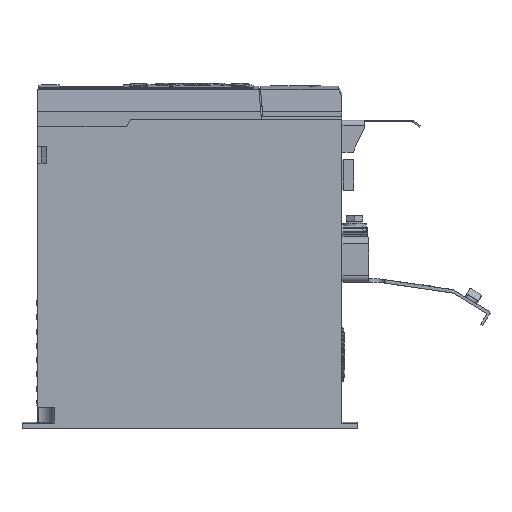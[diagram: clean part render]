
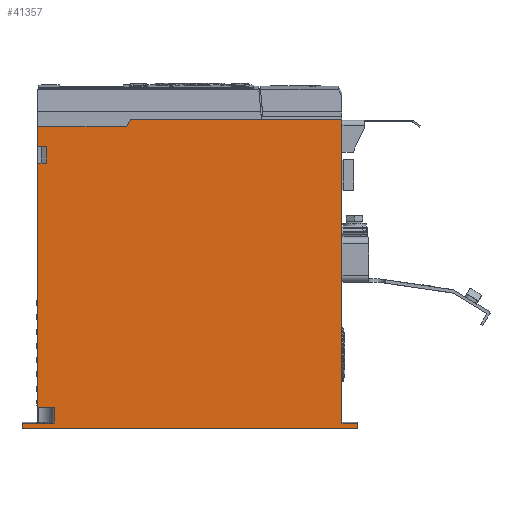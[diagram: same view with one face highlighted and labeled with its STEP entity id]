
A CAD part, left-side view. The second image highlights one B-rep face of the part: STEP entity #41357.
In plain terms, the highlighted planar face has unit normal (-1, 0, 0).
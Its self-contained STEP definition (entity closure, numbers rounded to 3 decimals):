
#2907=DIRECTION('',(0.,-1.,0.));
#2908=VECTOR('',#2907,200.);
#2909=CARTESIAN_POINT('',(-49.4,100.,-89.4));
#2910=LINE('',#2909,#2908);
#3012=DIRECTION('',(0.,1.,0.));
#3013=VECTOR('',#3012,9.25);
#3014=CARTESIAN_POINT('',(-49.4,-100.,-86.4));
#3015=LINE('',#3014,#3013);
#3048=DIRECTION('',(0.,1.,0.));
#3049=VECTOR('',#3048,18.748);
#3050=CARTESIAN_POINT('',(-49.4,81.252,-86.4));
#3051=LINE('',#3050,#3049);
#7835=DIRECTION('',(0.,0.,1.));
#7836=VECTOR('',#7835,3.);
#7837=CARTESIAN_POINT('',(-49.4,-100.,-89.4));
#7838=LINE('',#7837,#7836);
#8356=DIRECTION('',(0.,0.,1.));
#8357=VECTOR('',#8356,9.501);
#8358=CARTESIAN_POINT('',(-49.4,80.75,-85.901));
#8359=LINE('',#8358,#8357);
#8360=DIRECTION('',(0.,1.,0.));
#8361=VECTOR('',#8360,10.);
#8362=CARTESIAN_POINT('',(-49.4,80.75,-76.4));
#8363=LINE('',#8362,#8361);
#8364=DIRECTION('',(0.,0.,1.));
#8365=VECTOR('',#8364,145.4);
#8366=CARTESIAN_POINT('',(-49.4,90.75,-76.4));
#8367=LINE('',#8366,#8365);
#8368=DIRECTION('',(0.,-1.,0.));
#8369=VECTOR('',#8368,5.36);
#8370=CARTESIAN_POINT('',(-49.4,90.75,69.));
#8371=LINE('',#8370,#8369);
#8372=DIRECTION('',(0.,0.,1.));
#8373=VECTOR('',#8372,10.);
#8374=CARTESIAN_POINT('',(-49.4,85.39,69.));
#8375=LINE('',#8374,#8373);
#8376=DIRECTION('',(0.,-1.,0.));
#8377=VECTOR('',#8376,5.36);
#8378=CARTESIAN_POINT('',(-49.4,90.75,79.));
#8379=LINE('',#8378,#8377);
#8380=DIRECTION('',(0.,0.,1.));
#8381=VECTOR('',#8380,11.6);
#8382=CARTESIAN_POINT('',(-49.4,90.75,79.));
#8383=LINE('',#8382,#8381);
#8384=DIRECTION('',(0.,1.,0.));
#8385=VECTOR('',#8384,53.);
#8386=CARTESIAN_POINT('',(-49.4,37.75,90.6));
#8387=LINE('',#8386,#8385);
#8388=DIRECTION('',(0.,-0.5,0.866));
#8389=VECTOR('',#8388,5.196);
#8390=CARTESIAN_POINT('',(-49.4,37.75,90.6));
#8391=LINE('',#8390,#8389);
#8392=DIRECTION('',(0.,-1.,0.));
#8393=VECTOR('',#8392,125.902);
#8394=CARTESIAN_POINT('',(-49.4,35.152,95.1));
#8395=LINE('',#8394,#8393);
#8396=DIRECTION('',(0.,0.,-1.));
#8397=VECTOR('',#8396,181.5);
#8398=CARTESIAN_POINT('',(-49.4,-90.75,95.1));
#8399=LINE('',#8398,#8397);
#8405=CARTESIAN_POINT('',(-49.4,80.75,-85.901));
#8406=CARTESIAN_POINT('',(-49.4,80.75,-86.068));
#8407=CARTESIAN_POINT('',(-49.4,80.877,-86.274));
#8408=CARTESIAN_POINT('',(-49.4,81.085,-86.4));
#8409=CARTESIAN_POINT('',(-49.4,81.252,-86.4));
#20590=DIRECTION('',(0.,0.,1.));
#20591=VECTOR('',#20590,3.);
#20592=CARTESIAN_POINT('',(-49.4,100.,-89.4));
#20593=LINE('',#20592,#20591);
#24371=CARTESIAN_POINT('',(-49.4,-100.,-89.4));
#24372=CARTESIAN_POINT('',(-49.4,-100.,-86.4));
#24373=VERTEX_POINT('',#24371);
#24374=VERTEX_POINT('',#24372);
#24379=CARTESIAN_POINT('',(-49.4,100.,-89.4));
#24380=CARTESIAN_POINT('',(-49.4,100.,-86.4));
#24381=VERTEX_POINT('',#24379);
#24382=VERTEX_POINT('',#24380);
#24389=CARTESIAN_POINT('',(-49.4,-90.75,-86.4));
#24390=VERTEX_POINT('',#24389);
#24459=CARTESIAN_POINT('',(-49.4,80.75,-76.4));
#24460=CARTESIAN_POINT('',(-49.4,90.75,-76.4));
#24461=VERTEX_POINT('',#24459);
#24462=VERTEX_POINT('',#24460);
#25582=CARTESIAN_POINT('',(-49.4,-90.75,95.1));
#25583=VERTEX_POINT('',#25582);
#26310=CARTESIAN_POINT('',(-49.4,81.252,-86.4));
#26312=VERTEX_POINT('',#26310);
#26314=CARTESIAN_POINT('',(-49.4,80.75,-85.901));
#26316=VERTEX_POINT('',#26314);
#26865=CARTESIAN_POINT('',(-49.4,90.75,90.6));
#26867=VERTEX_POINT('',#26865);
#26869=CARTESIAN_POINT('',(-49.4,37.75,90.6));
#26870=VERTEX_POINT('',#26869);
#26871=CARTESIAN_POINT('',(-49.4,35.152,95.1));
#26872=VERTEX_POINT('',#26871);
#27044=CARTESIAN_POINT('',(-49.4,90.75,69.));
#27045=CARTESIAN_POINT('',(-49.4,85.39,69.));
#27046=VERTEX_POINT('',#27044);
#27047=VERTEX_POINT('',#27045);
#27048=CARTESIAN_POINT('',(-49.4,90.75,79.));
#27049=CARTESIAN_POINT('',(-49.4,85.39,79.));
#27050=VERTEX_POINT('',#27048);
#27051=VERTEX_POINT('',#27049);
#41324=CARTESIAN_POINT('',(-49.4,90.75,-89.4));
#41325=DIRECTION('',(-1.,0.,0.));
#41326=DIRECTION('',(0.,-1.,0.));
#41327=AXIS2_PLACEMENT_3D('',#41324,#41325,#41326);
#41328=PLANE('',#41327);
#41329=ORIENTED_EDGE('',*,*,#33045,.F.);
#41331=ORIENTED_EDGE('',*,*,#41330,.F.);
#41333=ORIENTED_EDGE('',*,*,#41332,.T.);
#41334=ORIENTED_EDGE('',*,*,#41317,.T.);
#41335=ORIENTED_EDGE('',*,*,#40802,.T.);
#41337=ORIENTED_EDGE('',*,*,#41336,.T.);
#41339=ORIENTED_EDGE('',*,*,#41338,.T.);
#41341=ORIENTED_EDGE('',*,*,#41340,.F.);
#41342=ORIENTED_EDGE('',*,*,#40794,.T.);
#41344=ORIENTED_EDGE('',*,*,#41343,.F.);
#41346=ORIENTED_EDGE('',*,*,#41345,.T.);
#41348=ORIENTED_EDGE('',*,*,#41347,.T.);
#41349=ORIENTED_EDGE('',*,*,#29157,.T.);
#41350=ORIENTED_EDGE('',*,*,#33019,.F.);
#41351=ORIENTED_EDGE('',*,*,#40451,.F.);
#41352=ORIENTED_EDGE('',*,*,#32907,.F.);
#41354=ORIENTED_EDGE('',*,*,#41353,.T.);
#41355=EDGE_LOOP('',(#41329,#41331,#41333,#41334,#41335,#41337,#41339,#41341,
#41342,#41344,#41346,#41348,#41349,#41350,#41351,#41352,#41354));
#41356=FACE_OUTER_BOUND('',#41355,.F.);
#41357=ADVANCED_FACE('',(#41356),#41328,.T.);
#8410=B_SPLINE_CURVE_WITH_KNOTS('',3,(#8405,#8406,#8407,#8408,#8409),
.UNSPECIFIED.,.F.,.F.,(4,1,4),(0.,0.5,1.),.UNSPECIFIED.);
#29157=EDGE_CURVE('',#25583,#24390,#8399,.T.);
#32907=EDGE_CURVE('',#24381,#24373,#2910,.T.);
#33019=EDGE_CURVE('',#24374,#24390,#3015,.T.);
#33045=EDGE_CURVE('',#26312,#24382,#3051,.T.);
#40451=EDGE_CURVE('',#24373,#24374,#7838,.T.);
#40794=EDGE_CURVE('',#27050,#26867,#8383,.T.);
#40802=EDGE_CURVE('',#24462,#27046,#8367,.T.);
#41317=EDGE_CURVE('',#24461,#24462,#8363,.T.);
#41330=EDGE_CURVE('',#26316,#26312,#8410,.T.);
#41332=EDGE_CURVE('',#26316,#24461,#8359,.T.);
#41336=EDGE_CURVE('',#27046,#27047,#8371,.T.);
#41338=EDGE_CURVE('',#27047,#27051,#8375,.T.);
#41340=EDGE_CURVE('',#27050,#27051,#8379,.T.);
#41343=EDGE_CURVE('',#26870,#26867,#8387,.T.);
#41345=EDGE_CURVE('',#26870,#26872,#8391,.T.);
#41347=EDGE_CURVE('',#26872,#25583,#8395,.T.);
#41353=EDGE_CURVE('',#24381,#24382,#20593,.T.);
